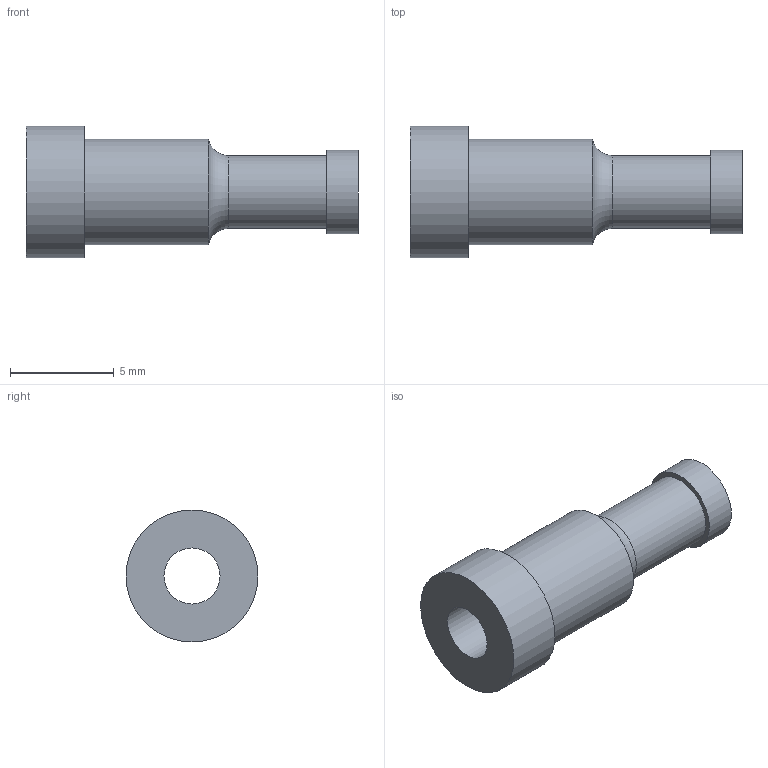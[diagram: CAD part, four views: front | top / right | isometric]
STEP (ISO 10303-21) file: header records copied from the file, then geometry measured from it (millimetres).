
FILE_DESCRIPTION(/* description */ (''),/* implementation_level */ '2;1');
FILE_NAME(/* name */ 'CMS.BTL.00000070.stp',/* time_stamp */ '2023-10-24T15:04:10+02:00',/* author */ (''),/* organization */ (''),/* preprocessor_version */ 'ST-DEVELOPER v19.4',/* originating_system */ 'SIEMENS PLM Software NX2306.5001',/* authorisation */ '');
FILE_SCHEMA (('AP203_CONFIGURATION_CONTROLLED_3D_DESIGN_OF_MECHANICAL_PARTS_AND_ASSEMBLIES_MIM_LF { 1 0 10303 403 2 1 2}'));
Length unit declared in the file: millimetre
Products named in the file (1): CMS.BTL.00000070_dwg_objects
Bounding box: 15.98 x 6.35 x 6.35 mm (x, y, z)
Volume: 191.3 mm3; surface area: 424.1 mm2
Topology: 1 solids, 1 shells, 12 faces, 24 edges, 17 vertices
Faces by surface type: cylinder 6, plane 5, torus 1
Full cylindrical faces by diameter (mm): 2.7 x1, 3.5 x1, 3.55 x1, 4 x1, 5.08 x1, 6.35 x1
Entity records: 374 total; most frequent: DIRECTION 58, CARTESIAN_POINT 45, ORIENTED_EDGE 34, AXIS2_PLACEMENT_3D 28, EDGE_LOOP 22, FACE_BOUND 20, EDGE_CURVE 17, VERTEX_POINT 15
